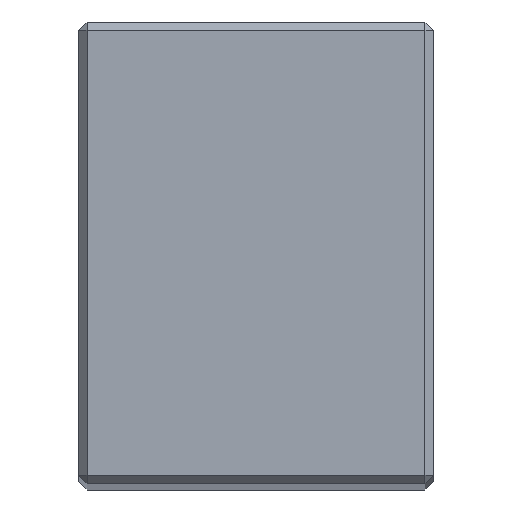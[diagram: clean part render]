
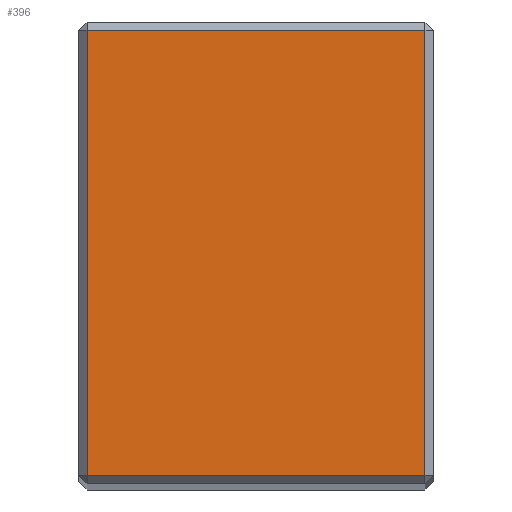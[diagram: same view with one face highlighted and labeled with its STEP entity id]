
A CAD part, top view. The second image highlights one B-rep face of the part: STEP entity #396.
In plain terms, the highlighted planar face has unit normal (0, 0, 1).
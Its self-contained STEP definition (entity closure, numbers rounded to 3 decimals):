
#3 = ORIENTED_EDGE ( 'NONE', *, *, #62, .T. ) ;
#17 = VERTEX_POINT ( 'NONE', #482 ) ;
#34 = DIRECTION ( 'NONE',  ( -1., 0., 0. ) ) ;
#53 = LINE ( 'NONE', #575, #299 ) ;
#56 = DIRECTION ( 'NONE',  ( 0., 0., -1. ) ) ;
#62 = EDGE_CURVE ( 'NONE', #617, #71, #534, .T. ) ;
#71 = VERTEX_POINT ( 'NONE', #493 ) ;
#79 = PLANE ( 'NONE',  #171 ) ;
#92 = CARTESIAN_POINT ( 'NONE',  ( 21.5, 56., 223. ) ) ;
#156 = CARTESIAN_POINT ( 'NONE',  ( -21.5, 55., 223. ) ) ;
#161 = CARTESIAN_POINT ( 'NONE',  ( 20.5, 55., 223. ) ) ;
#163 = ORIENTED_EDGE ( 'NONE', *, *, #539, .T. ) ;
#165 = EDGE_CURVE ( 'NONE', #17, #358, #53, .T. ) ;
#171 = AXIS2_PLACEMENT_3D ( 'NONE', #92, #56, #34 ) ;
#182 = EDGE_CURVE ( 'NONE', #358, #617, #598, .T. ) ;
#195 = CARTESIAN_POINT ( 'NONE',  ( 21.5, 1., 223. ) ) ;
#296 = DIRECTION ( 'NONE',  ( -1., 0., 0. ) ) ;
#299 = VECTOR ( 'NONE', #408, 1000. ) ;
#312 = DIRECTION ( 'NONE',  ( 0., -1., 0. ) ) ;
#358 = VERTEX_POINT ( 'NONE', #161 ) ;
#396 = ADVANCED_FACE ( 'NONE', ( #641 ), #79, .F. ) ;
#408 = DIRECTION ( 'NONE',  ( 0., 1., 0. ) ) ;
#411 = EDGE_LOOP ( 'NONE', ( #523, #3, #163, #515 ) ) ;
#415 = VECTOR ( 'NONE', #312, 1000. ) ;
#433 = LINE ( 'NONE', #195, #442 ) ;
#442 = VECTOR ( 'NONE', #584, 1000. ) ;
#482 = CARTESIAN_POINT ( 'NONE',  ( 20.5, 1., 223. ) ) ;
#493 = CARTESIAN_POINT ( 'NONE',  ( -20.5, 1., 223. ) ) ;
#515 = ORIENTED_EDGE ( 'NONE', *, *, #165, .T. ) ;
#523 = ORIENTED_EDGE ( 'NONE', *, *, #182, .T. ) ;
#534 = LINE ( 'NONE', #566, #415 ) ;
#539 = EDGE_CURVE ( 'NONE', #71, #17, #433, .T. ) ;
#566 = CARTESIAN_POINT ( 'NONE',  ( -20.5, 56., 223. ) ) ;
#575 = CARTESIAN_POINT ( 'NONE',  ( 20.5, 56., 223. ) ) ;
#584 = DIRECTION ( 'NONE',  ( 1., 0., 0. ) ) ;
#594 = CARTESIAN_POINT ( 'NONE',  ( -20.5, 55., 223. ) ) ;
#598 = LINE ( 'NONE', #156, #615 ) ;
#615 = VECTOR ( 'NONE', #296, 1000. ) ;
#617 = VERTEX_POINT ( 'NONE', #594 ) ;
#641 = FACE_OUTER_BOUND ( 'NONE', #411, .T. ) ;
